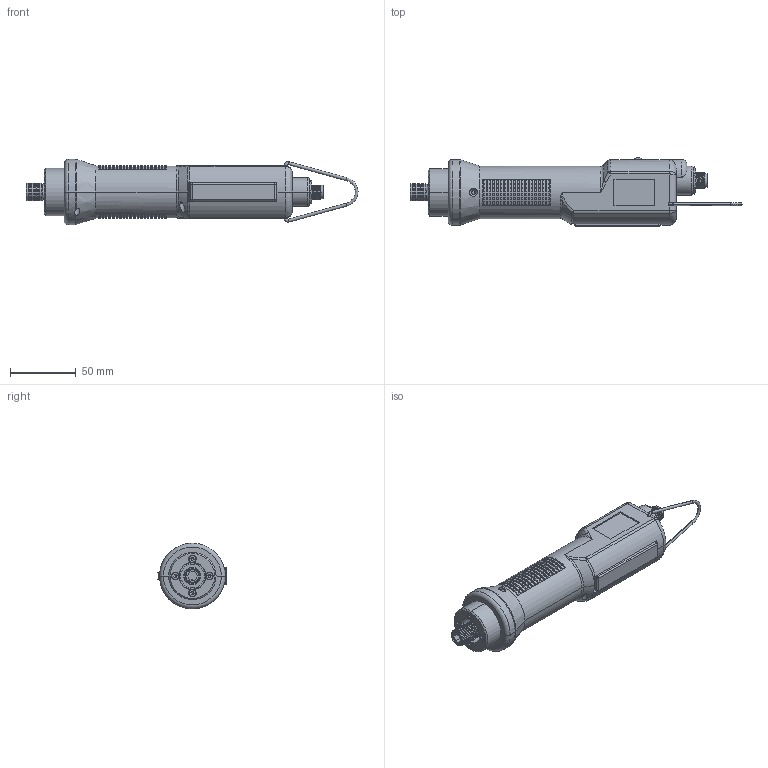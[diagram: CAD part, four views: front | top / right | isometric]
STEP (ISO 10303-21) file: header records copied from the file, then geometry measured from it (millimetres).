
FILE_DESCRIPTION (( 'STEP AP214' ), '1' );
FILE_NAME ('Pluto_D.STEP', '2014-05-06T06:58:19', ( 'davide' ), ( '' ), 'SwSTEP 2.0', 'SolidWorks 2013', '' );
FILE_SCHEMA (( 'AUTOMOTIVE_DESIGN' ));
Length unit declared in the file: millimetre
Products named in the file (1): Pluto_D
Bounding box: 252.6 x 52.43 x 50 mm (x, y, z)
Volume: 189762.6 mm3; surface area: 86808 mm2
Topology: 26 solids, 26 shells, 2541 faces, 6190 edges, 3883 vertices
Faces by surface type: plane 1162, cylinder 780, cone 382, torus 106, bspline 101, sphere 10
Entity records: 118284 total; most frequent: CARTESIAN_POINT 29818, DIRECTION 13134, ORIENTED_EDGE 12246, EDGE_CURVE 6123, AXIS2_PLACEMENT_3D 5009, VERTEX_POINT 3880, LINE 3116, VECTOR 3116
